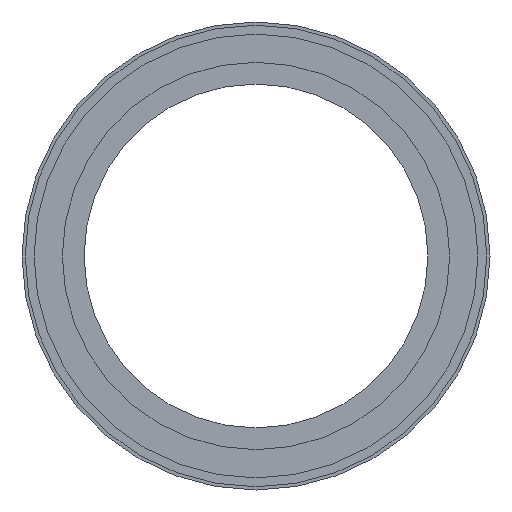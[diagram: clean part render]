
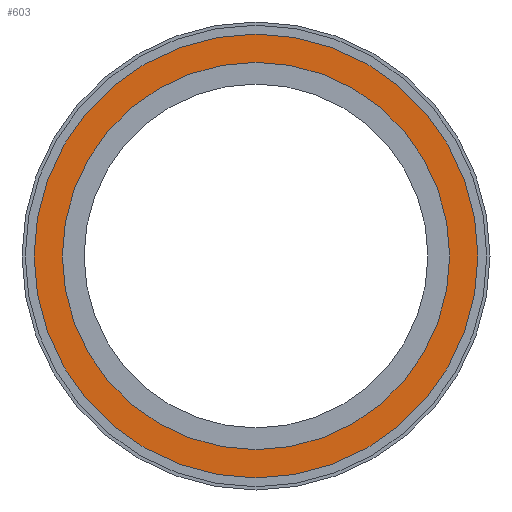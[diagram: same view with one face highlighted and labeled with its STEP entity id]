
A CAD part, front view. The second image highlights one B-rep face of the part: STEP entity #603.
In plain terms, the highlighted planar face has unit normal (0, -1, 0).
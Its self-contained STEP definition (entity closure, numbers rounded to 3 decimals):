
#26 = EDGE_CURVE ( 'NONE', #1192, #1279, #396, .T. ) ;
#47 = CARTESIAN_POINT ( 'NONE',  ( 0., 38., 137.5 ) ) ;
#120 = DIRECTION ( 'NONE',  ( 0., 0., -1. ) ) ;
#125 = VERTEX_POINT ( 'NONE', #505 ) ;
#127 = AXIS2_PLACEMENT_3D ( 'NONE', #901, #220, #120 ) ;
#144 = DIRECTION ( 'NONE',  ( 0., 0., -1. ) ) ;
#160 = DIRECTION ( 'NONE',  ( 0., 0., -1. ) ) ;
#162 = FACE_OUTER_BOUND ( 'NONE', #1177, .T. ) ;
#220 = DIRECTION ( 'NONE',  ( 0., -1., 0. ) ) ;
#221 = CARTESIAN_POINT ( 'NONE',  ( 0., 38., 0. ) ) ;
#389 = PLANE ( 'NONE',  #557 ) ;
#396 = CIRCLE ( 'NONE', #1420, 137.5 ) ;
#465 = CIRCLE ( 'NONE', #866, 109.55 ) ;
#472 = FACE_BOUND ( 'NONE', #939, .T. ) ;
#485 = DIRECTION ( 'NONE',  ( 0., 0., -1. ) ) ;
#505 = CARTESIAN_POINT ( 'NONE',  ( 0., 38., 109.55 ) ) ;
#557 = AXIS2_PLACEMENT_3D ( 'NONE', #913, #588, #485 ) ;
#587 = ORIENTED_EDGE ( 'NONE', *, *, #26, .T. ) ;
#588 = DIRECTION ( 'NONE',  ( 0., -1., 0. ) ) ;
#603 = ADVANCED_FACE ( 'NONE', ( #162, #472 ), #389, .T. ) ;
#614 = EDGE_CURVE ( 'NONE', #825, #125, #465, .T. ) ;
#621 = ORIENTED_EDGE ( 'NONE', *, *, #614, .F. ) ;
#659 = AXIS2_PLACEMENT_3D ( 'NONE', #855, #758, #1086 ) ;
#758 = DIRECTION ( 'NONE',  ( 0., -1., 0. ) ) ;
#816 = DIRECTION ( 'NONE',  ( 0., -1., 0. ) ) ;
#825 = VERTEX_POINT ( 'NONE', #1367 ) ;
#855 = CARTESIAN_POINT ( 'NONE',  ( 0., 38., 0. ) ) ;
#866 = AXIS2_PLACEMENT_3D ( 'NONE', #1039, #816, #160 ) ;
#879 = CIRCLE ( 'NONE', #659, 109.55 ) ;
#901 = CARTESIAN_POINT ( 'NONE',  ( 0., 38., 0. ) ) ;
#913 = CARTESIAN_POINT ( 'NONE',  ( 0., 38., -137.5 ) ) ;
#939 = EDGE_LOOP ( 'NONE', ( #621, #1158 ) ) ;
#965 = EDGE_CURVE ( 'NONE', #125, #825, #879, .T. ) ;
#1039 = CARTESIAN_POINT ( 'NONE',  ( 0., 38., 0. ) ) ;
#1086 = DIRECTION ( 'NONE',  ( 0., 0., -1. ) ) ;
#1133 = EDGE_CURVE ( 'NONE', #1279, #1192, #1386, .T. ) ;
#1158 = ORIENTED_EDGE ( 'NONE', *, *, #965, .F. ) ;
#1177 = EDGE_LOOP ( 'NONE', ( #1183, #587 ) ) ;
#1183 = ORIENTED_EDGE ( 'NONE', *, *, #1133, .T. ) ;
#1192 = VERTEX_POINT ( 'NONE', #47 ) ;
#1193 = CARTESIAN_POINT ( 'NONE',  ( 0., 38., -137.5 ) ) ;
#1279 = VERTEX_POINT ( 'NONE', #1193 ) ;
#1351 = DIRECTION ( 'NONE',  ( 0., -1., 0. ) ) ;
#1367 = CARTESIAN_POINT ( 'NONE',  ( 0., 38., -109.55 ) ) ;
#1386 = CIRCLE ( 'NONE', #127, 137.5 ) ;
#1420 = AXIS2_PLACEMENT_3D ( 'NONE', #221, #1351, #144 ) ;
